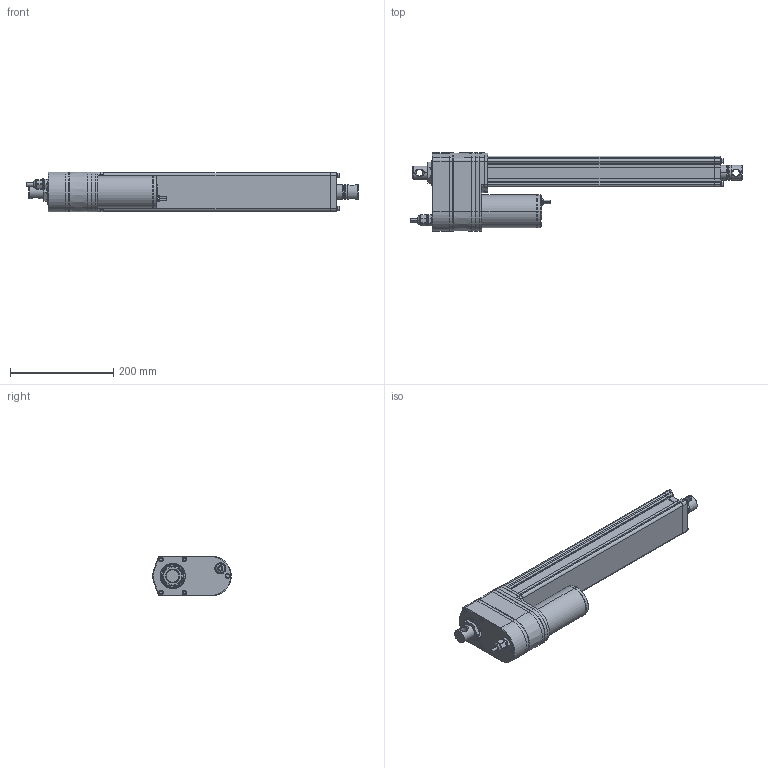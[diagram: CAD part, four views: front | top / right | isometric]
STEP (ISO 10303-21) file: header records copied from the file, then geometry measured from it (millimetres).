
FILE_DESCRIPTION((''),' ');
FILE_NAME('dszy12-300_lt_ltpot_lths.stp',' ',('MSW'),('MSW'),' ','ACIS 14.0',' ');
FILE_SCHEMA(('automotive_design'));
Length unit declared in the file: inch
Products named in the file (2): dszy12-300_lt_ltpot_lths
Bounding box: 642 x 151.7 x 77.2 mm (x, y, z)
Volume: 3071489.2 mm3; surface area: 334527.4 mm2
Topology: 2 solids, 2 shells, 1687 faces, 4097 edges, 2434 vertices
Faces by surface type: plane 1327, cylinder 232, cone 64, torus 40, bspline 24
Entity records: 62295 total; most frequent: CARTESIAN_POINT 8791, DIRECTION 8725, ORIENTED_EDGE 8146, EDGE_CURVE 4073, AXIS2_PLACEMENT_3D 3043, LINE 2639, VECTOR 2639, VERTEX_POINT 2434
